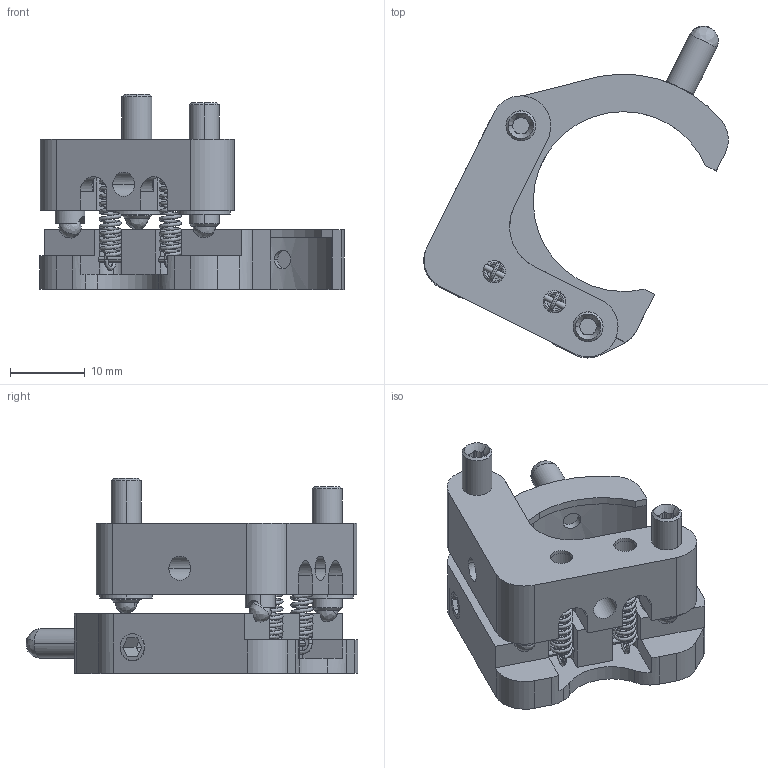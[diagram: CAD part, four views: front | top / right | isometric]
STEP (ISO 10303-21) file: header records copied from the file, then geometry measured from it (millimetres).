
FILE_DESCRIPTION (( 'STEP AP203' ), '1' );
FILE_NAME ('5F23-1-SH.STEP', '2010-01-05T12:58:50', ( 'Darius' ), ( '' ), 'SwSTEP 2.0', 'SolidWorks 2003240', '' );
FILE_SCHEMA (( 'CONFIG_CONTROL_DESIGN' ));
Length unit declared in the file: millimetre
Products named in the file (1): 5F23-1-SH
Bounding box: 40.66 x 44.31 x 26.03 mm (x, y, z)
Volume: 6989.9 mm3; surface area: 5413.9 mm2
Topology: 1 solids, 1 shells, 484 faces, 1393 edges, 918 vertices
Faces by surface type: plane 206, bspline 159, cylinder 94, cone 25
Entity records: 22324 total; most frequent: CARTESIAN_POINT 10620, ORIENTED_EDGE 2762, DIRECTION 1893, EDGE_CURVE 1381, VERTEX_POINT 918, VECTOR 715, LINE 715, AXIS2_PLACEMENT_3D 589
